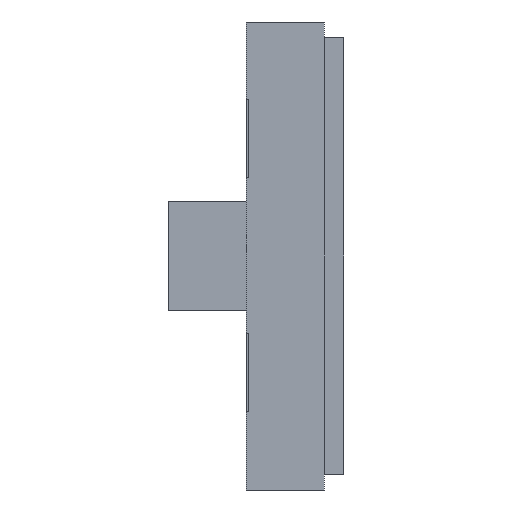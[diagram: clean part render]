
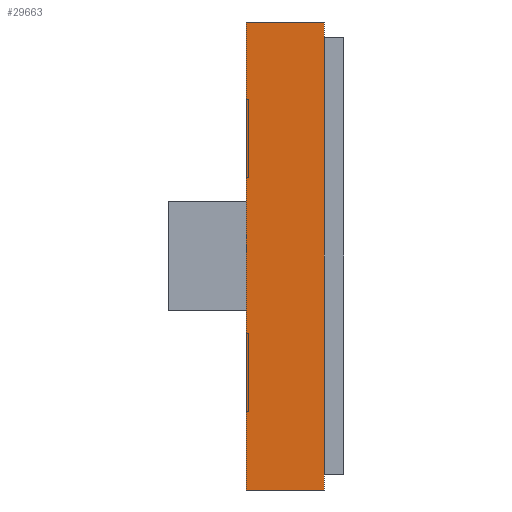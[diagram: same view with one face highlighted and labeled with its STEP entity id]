
A CAD part, left-side view. The second image highlights one B-rep face of the part: STEP entity #29663.
In plain terms, the highlighted planar face has unit normal (-1, 0, 0).
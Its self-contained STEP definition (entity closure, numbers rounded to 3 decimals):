
#851 = CARTESIAN_POINT ( 'NONE',  ( -285., -1., 3. ) ) ;
#4061 = CARTESIAN_POINT ( 'NONE',  ( -285., -1., 3. ) ) ;
#4276 = EDGE_CURVE ( 'NONE', #24513, #30095, #13794, .T. ) ;
#6657 = ORIENTED_EDGE ( 'NONE', *, *, #36024, .T. ) ;
#6924 = VECTOR ( 'NONE', #20067, 1000. ) ;
#12804 = CARTESIAN_POINT ( 'NONE',  ( -285., 0., -3. ) ) ;
#13366 = FACE_OUTER_BOUND ( 'NONE', #84744, .T. ) ;
#13468 = VERTEX_POINT ( 'NONE', #851 ) ;
#13794 = LINE ( 'NONE', #12804, #42778 ) ;
#19614 = VERTEX_POINT ( 'NONE', #89487 ) ;
#20067 = DIRECTION ( 'NONE',  ( 0., 1., 0. ) ) ;
#24513 = VERTEX_POINT ( 'NONE', #98421 ) ;
#26369 = DIRECTION ( 'NONE',  ( 0., 0., 1. ) ) ;
#28212 = EDGE_CURVE ( 'NONE', #19614, #24513, #35306, .T. ) ;
#29663 = ADVANCED_FACE ( 'NONE', ( #13366 ), #96780, .T. ) ;
#30095 = VERTEX_POINT ( 'NONE', #72696 ) ;
#35306 = LINE ( 'NONE', #89229, #65679 ) ;
#35663 = LINE ( 'NONE', #83385, #67854 ) ;
#36024 = EDGE_CURVE ( 'NONE', #19614, #13468, #35663, .T. ) ;
#41894 = EDGE_CURVE ( 'NONE', #13468, #30095, #75477, .T. ) ;
#42778 = VECTOR ( 'NONE', #75938, 1000. ) ;
#44423 = DIRECTION ( 'NONE',  ( 0., 0., 1. ) ) ;
#53423 = ORIENTED_EDGE ( 'NONE', *, *, #4276, .F. ) ;
#59570 = DIRECTION ( 'NONE',  ( -1., 0., 0. ) ) ;
#64416 = ORIENTED_EDGE ( 'NONE', *, *, #41894, .T. ) ;
#65679 = VECTOR ( 'NONE', #67598, 1000. ) ;
#67598 = DIRECTION ( 'NONE',  ( 0., 1., 0. ) ) ;
#67854 = VECTOR ( 'NONE', #44423, 1000. ) ;
#72508 = ORIENTED_EDGE ( 'NONE', *, *, #28212, .F. ) ;
#72696 = CARTESIAN_POINT ( 'NONE',  ( -285., 0., 3. ) ) ;
#73069 = CARTESIAN_POINT ( 'NONE',  ( -285., -1., -3. ) ) ;
#75477 = LINE ( 'NONE', #4061, #6924 ) ;
#75938 = DIRECTION ( 'NONE',  ( 0., 0., 1. ) ) ;
#83385 = CARTESIAN_POINT ( 'NONE',  ( -285., -1., -3. ) ) ;
#84744 = EDGE_LOOP ( 'NONE', ( #53423, #72508, #6657, #64416 ) ) ;
#89229 = CARTESIAN_POINT ( 'NONE',  ( -285., -1., -3. ) ) ;
#89487 = CARTESIAN_POINT ( 'NONE',  ( -285., -1., -3. ) ) ;
#92240 = AXIS2_PLACEMENT_3D ( 'NONE', #73069, #59570, #26369 ) ;
#96780 = PLANE ( 'NONE',  #92240 ) ;
#98421 = CARTESIAN_POINT ( 'NONE',  ( -285., 0., -3. ) ) ;
